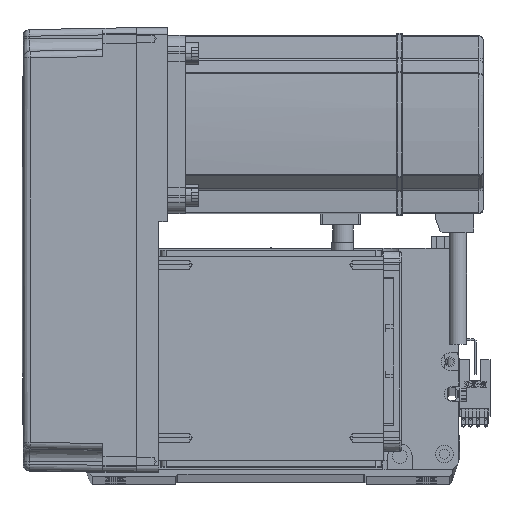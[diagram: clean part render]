
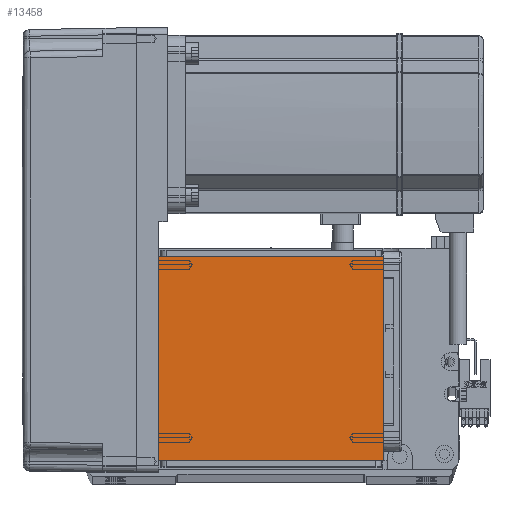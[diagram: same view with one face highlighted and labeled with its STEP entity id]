
A CAD part, top view. The second image highlights one B-rep face of the part: STEP entity #13458.
In plain terms, the highlighted planar face has unit normal (0, 0, 1).
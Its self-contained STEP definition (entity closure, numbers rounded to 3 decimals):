
#181 = FACE_OUTER_BOUND ( 'NONE', #45077, .T. ) ;
#2056 = DIRECTION ( 'NONE',  ( 1., 0., 0. ) ) ;
#2656 = CARTESIAN_POINT ( 'NONE',  ( 50.5, 111.5, 115. ) ) ;
#6345 = CARTESIAN_POINT ( 'NONE',  ( -70.004, 111.5, 115. ) ) ;
#8667 = VERTEX_POINT ( 'NONE', #2656 ) ;
#9544 = EDGE_CURVE ( 'NONE', #26800, #45705, #21504, .T. ) ;
#13274 = VECTOR ( 'NONE', #15092, 1000. ) ;
#13458 = ADVANCED_FACE ( 'NONE', ( #181 ), #36089, .T. ) ;
#14266 = CARTESIAN_POINT ( 'NONE',  ( 50.5, 122., 115. ) ) ;
#15092 = DIRECTION ( 'NONE',  ( 0., 1., 0. ) ) ;
#20422 = ORIENTED_EDGE ( 'NONE', *, *, #32195, .F. ) ;
#20959 = DIRECTION ( 'NONE',  ( 1., 0., 0. ) ) ;
#21504 = LINE ( 'NONE', #38921, #46964 ) ;
#25256 = CARTESIAN_POINT ( 'NONE',  ( -50.5, 20., 115. ) ) ;
#25665 = DIRECTION ( 'NONE',  ( 0., 0., 1. ) ) ;
#26800 = VERTEX_POINT ( 'NONE', #36231 ) ;
#28137 = VECTOR ( 'NONE', #57678, 1000. ) ;
#29055 = LINE ( 'NONE', #14266, #13274 ) ;
#31338 = CARTESIAN_POINT ( 'NONE',  ( 0., 0., 115. ) ) ;
#32195 = EDGE_CURVE ( 'NONE', #26800, #8667, #51578, .T. ) ;
#34058 = CARTESIAN_POINT ( 'NONE',  ( -70.004, 20., 115. ) ) ;
#34983 = CARTESIAN_POINT ( 'NONE',  ( 50.5, 20., 115. ) ) ;
#36089 = PLANE ( 'NONE',  #54113 ) ;
#36231 = CARTESIAN_POINT ( 'NONE',  ( -50.5, 111.5, 115. ) ) ;
#38869 = VECTOR ( 'NONE', #20959, 1000. ) ;
#38921 = CARTESIAN_POINT ( 'NONE',  ( -50.5, 122., 115. ) ) ;
#39553 = DIRECTION ( 'NONE',  ( 0., -1., 0. ) ) ;
#42152 = EDGE_CURVE ( 'NONE', #46474, #45705, #45369, .T. ) ;
#45077 = EDGE_LOOP ( 'NONE', ( #20422, #57295, #54936, #58594 ) ) ;
#45369 = LINE ( 'NONE', #34058, #28137 ) ;
#45705 = VERTEX_POINT ( 'NONE', #25256 ) ;
#46474 = VERTEX_POINT ( 'NONE', #34983 ) ;
#46964 = VECTOR ( 'NONE', #39553, 1000. ) ;
#51578 = LINE ( 'NONE', #6345, #38869 ) ;
#52331 = EDGE_CURVE ( 'NONE', #46474, #8667, #29055, .T. ) ;
#54113 = AXIS2_PLACEMENT_3D ( 'NONE', #31338, #25665, #2056 ) ;
#54936 = ORIENTED_EDGE ( 'NONE', *, *, #42152, .F. ) ;
#57295 = ORIENTED_EDGE ( 'NONE', *, *, #9544, .T. ) ;
#57678 = DIRECTION ( 'NONE',  ( -1., 0., 0. ) ) ;
#58594 = ORIENTED_EDGE ( 'NONE', *, *, #52331, .T. ) ;
